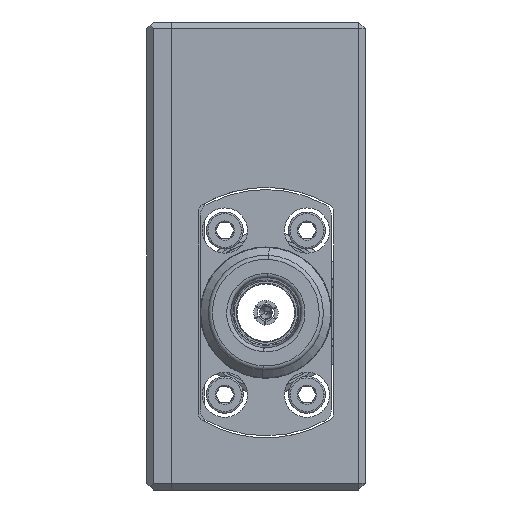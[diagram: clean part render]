
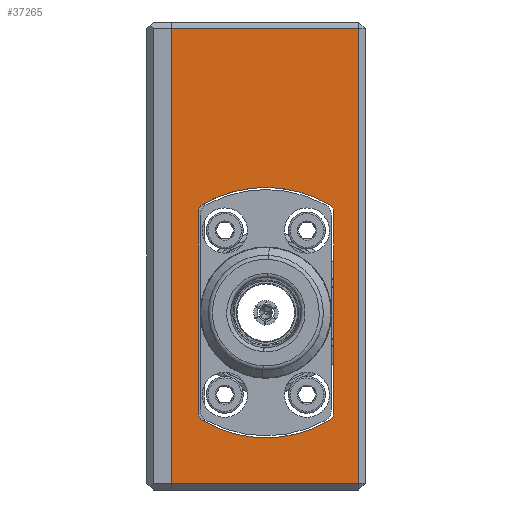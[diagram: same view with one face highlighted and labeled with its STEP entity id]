
A CAD part, left-side view. The second image highlights one B-rep face of the part: STEP entity #37265.
In plain terms, the highlighted planar face has unit normal (-1, 0, 0).
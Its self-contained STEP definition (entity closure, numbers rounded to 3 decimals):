
#716 = DIRECTION ( 'NONE',  ( 0., 0., 1. ) ) ;
#970 = EDGE_LOOP ( 'NONE', ( #13652, #41969, #1644, #5168 ) ) ;
#1521 = AXIS2_PLACEMENT_3D ( 'NONE', #9821, #9874, #9919 ) ;
#1644 = ORIENTED_EDGE ( 'NONE', *, *, #26739, .F. ) ;
#1770 = DIRECTION ( 'NONE',  ( 0., 0., -1. ) ) ;
#1803 = ORIENTED_EDGE ( 'NONE', *, *, #25664, .F. ) ;
#1814 = DIRECTION ( 'NONE',  ( 0., 1., 0. ) ) ;
#1825 = EDGE_CURVE ( 'NONE', #13358, #26185, #26572, .T. ) ;
#2011 = CARTESIAN_POINT ( 'NONE',  ( -20., 0., 20.2 ) ) ;
#2134 = DIRECTION ( 'NONE',  ( -1., 0., 0. ) ) ;
#2281 = LINE ( 'NONE', #11358, #2354 ) ;
#2354 = VECTOR ( 'NONE', #17034, 1000. ) ;
#2933 = VECTOR ( 'NONE', #30967, 1000. ) ;
#3204 = DIRECTION ( 'NONE',  ( 0., 0., -1. ) ) ;
#3257 = CARTESIAN_POINT ( 'NONE',  ( -20., -19.75, -2.132 ) ) ;
#3432 = CIRCLE ( 'NONE', #16463, 15.25 ) ;
#3885 = CARTESIAN_POINT ( 'NONE',  ( -20., -18.75, -2.132 ) ) ;
#3890 = EDGE_LOOP ( 'NONE', ( #23226, #15227, #39162, #12992, #1803, #26733, #40127, #38735, #33332 ) ) ;
#4066 = CARTESIAN_POINT ( 'NONE',  ( -20., 0., -36. ) ) ;
#4133 = CARTESIAN_POINT ( 'NONE',  ( -20., -19.259, -1.271 ) ) ;
#4401 = LINE ( 'NONE', #17752, #2933 ) ;
#4542 = CARTESIAN_POINT ( 'NONE',  ( -20., -23.6, 20.2 ) ) ;
#5168 = ORIENTED_EDGE ( 'NONE', *, *, #40979, .T. ) ;
#5179 = AXIS2_PLACEMENT_3D ( 'NONE', #40763, #31055, #21324 ) ;
#5343 = CARTESIAN_POINT ( 'NONE',  ( -20., -19.259, -27.529 ) ) ;
#5393 = AXIS2_PLACEMENT_3D ( 'NONE', #19528, #10367, #10502 ) ;
#6310 = VERTEX_POINT ( 'NONE', #3257 ) ;
#6495 = CIRCLE ( 'NONE', #31414, 1. ) ;
#7283 = VERTEX_POINT ( 'NONE', #11443 ) ;
#8132 = CIRCLE ( 'NONE', #1521, 1. ) ;
#8286 = CARTESIAN_POINT ( 'NONE',  ( -20., -11.5, 0.85 ) ) ;
#8962 = DIRECTION ( 'NONE',  ( 0., 0., 1. ) ) ;
#9821 = CARTESIAN_POINT ( 'NONE',  ( -20., -4.25, -26.668 ) ) ;
#9874 = DIRECTION ( 'NONE',  ( -1., 0., 0. ) ) ;
#9919 = DIRECTION ( 'NONE',  ( 0., 0., 1. ) ) ;
#10367 = DIRECTION ( 'NONE',  ( -1., 0., 0. ) ) ;
#10502 = DIRECTION ( 'NONE',  ( 0., 0., 1. ) ) ;
#10629 = CARTESIAN_POINT ( 'NONE',  ( -20., -3.741, -1.271 ) ) ;
#11358 = CARTESIAN_POINT ( 'NONE',  ( -20., -22.8, 21. ) ) ;
#11443 = CARTESIAN_POINT ( 'NONE',  ( -20., -22.8, -35.2 ) ) ;
#12204 = EDGE_CURVE ( 'NONE', #23119, #6310, #13185, .T. ) ;
#12690 = VERTEX_POINT ( 'NONE', #4133 ) ;
#12992 = ORIENTED_EDGE ( 'NONE', *, *, #40863, .F. ) ;
#13185 = LINE ( 'NONE', #35597, #15006 ) ;
#13358 = VERTEX_POINT ( 'NONE', #8286 ) ;
#13439 = CARTESIAN_POINT ( 'NONE',  ( -20., -3.25, -26.668 ) ) ;
#13542 = VERTEX_POINT ( 'NONE', #2011 ) ;
#13652 = ORIENTED_EDGE ( 'NONE', *, *, #41110, .T. ) ;
#14740 = LINE ( 'NONE', #4066, #30965 ) ;
#15006 = VECTOR ( 'NONE', #35361, 1000. ) ;
#15013 = VERTEX_POINT ( 'NONE', #38794 ) ;
#15227 = ORIENTED_EDGE ( 'NONE', *, *, #40920, .F. ) ;
#15420 = CIRCLE ( 'NONE', #24796, 1. ) ;
#15458 = CIRCLE ( 'NONE', #26754, 1. ) ;
#16463 = AXIS2_PLACEMENT_3D ( 'NONE', #19812, #39112, #16521 ) ;
#16521 = DIRECTION ( 'NONE',  ( 0., 0., 1. ) ) ;
#17034 = DIRECTION ( 'NONE',  ( 0., 0., 1. ) ) ;
#17159 = VECTOR ( 'NONE', #1770, 1000. ) ;
#17752 = CARTESIAN_POINT ( 'NONE',  ( -20., -23.6, -35.2 ) ) ;
#18417 = LINE ( 'NONE', #21472, #17159 ) ;
#18953 = VERTEX_POINT ( 'NONE', #36807 ) ;
#19528 = CARTESIAN_POINT ( 'NONE',  ( -20., -23.6, -36. ) ) ;
#19722 = PLANE ( 'NONE',  #5393 ) ;
#19812 = CARTESIAN_POINT ( 'NONE',  ( -20., -11.5, -14.4 ) ) ;
#20305 = CARTESIAN_POINT ( 'NONE',  ( -20., -22.8, 20.2 ) ) ;
#21324 = DIRECTION ( 'NONE',  ( 0., 0., 1. ) ) ;
#21472 = CARTESIAN_POINT ( 'NONE',  ( -20., -3.25, -26.668 ) ) ;
#21628 = DIRECTION ( 'NONE',  ( -1., 0., 0. ) ) ;
#22473 = VERTEX_POINT ( 'NONE', #13439 ) ;
#23119 = VERTEX_POINT ( 'NONE', #24875 ) ;
#23226 = ORIENTED_EDGE ( 'NONE', *, *, #25211, .F. ) ;
#24796 = AXIS2_PLACEMENT_3D ( 'NONE', #25080, #2134, #3204 ) ;
#24875 = CARTESIAN_POINT ( 'NONE',  ( -20., -19.75, -26.668 ) ) ;
#25080 = CARTESIAN_POINT ( 'NONE',  ( -20., -4.25, -2.132 ) ) ;
#25211 = EDGE_CURVE ( 'NONE', #31534, #23119, #15458, .T. ) ;
#25664 = EDGE_CURVE ( 'NONE', #26185, #18953, #15420, .T. ) ;
#26185 = VERTEX_POINT ( 'NONE', #10629 ) ;
#26522 = EDGE_CURVE ( 'NONE', #12690, #13358, #38338, .T. ) ;
#26572 = CIRCLE ( 'NONE', #33006, 15.25 ) ;
#26733 = ORIENTED_EDGE ( 'NONE', *, *, #1825, .F. ) ;
#26739 = EDGE_CURVE ( 'NONE', #28231, #13542, #14740, .T. ) ;
#26754 = AXIS2_PLACEMENT_3D ( 'NONE', #41214, #39364, #40612 ) ;
#26850 = VERTEX_POINT ( 'NONE', #20305 ) ;
#28231 = VERTEX_POINT ( 'NONE', #40446 ) ;
#29060 = FACE_BOUND ( 'NONE', #3890, .T. ) ;
#29934 = EDGE_CURVE ( 'NONE', #22473, #15013, #8132, .T. ) ;
#30965 = VECTOR ( 'NONE', #716, 1000. ) ;
#30967 = DIRECTION ( 'NONE',  ( 0., -1., 0. ) ) ;
#31055 = DIRECTION ( 'NONE',  ( -1., 0., 0. ) ) ;
#31414 = AXIS2_PLACEMENT_3D ( 'NONE', #3885, #41901, #39828 ) ;
#31534 = VERTEX_POINT ( 'NONE', #5343 ) ;
#32636 = FACE_OUTER_BOUND ( 'NONE', #970, .T. ) ;
#33006 = AXIS2_PLACEMENT_3D ( 'NONE', #39281, #21628, #8962 ) ;
#33332 = ORIENTED_EDGE ( 'NONE', *, *, #12204, .F. ) ;
#33712 = VECTOR ( 'NONE', #1814, 1000. ) ;
#34447 = LINE ( 'NONE', #4542, #33712 ) ;
#34916 = EDGE_CURVE ( 'NONE', #6310, #12690, #6495, .T. ) ;
#35361 = DIRECTION ( 'NONE',  ( 0., 0., 1. ) ) ;
#35597 = CARTESIAN_POINT ( 'NONE',  ( -20., -19.75, -26.668 ) ) ;
#36807 = CARTESIAN_POINT ( 'NONE',  ( -20., -3.25, -2.132 ) ) ;
#37265 = ADVANCED_FACE ( 'NONE', ( #29060, #32636 ), #19722, .T. ) ;
#38091 = EDGE_CURVE ( 'NONE', #26850, #13542, #34447, .T. ) ;
#38338 = CIRCLE ( 'NONE', #5179, 15.25 ) ;
#38735 = ORIENTED_EDGE ( 'NONE', *, *, #34916, .F. ) ;
#38794 = CARTESIAN_POINT ( 'NONE',  ( -20., -3.741, -27.529 ) ) ;
#39112 = DIRECTION ( 'NONE',  ( -1., 0., 0. ) ) ;
#39162 = ORIENTED_EDGE ( 'NONE', *, *, #29934, .F. ) ;
#39281 = CARTESIAN_POINT ( 'NONE',  ( -20., -11.5, -14.4 ) ) ;
#39364 = DIRECTION ( 'NONE',  ( -1., 0., 0. ) ) ;
#39828 = DIRECTION ( 'NONE',  ( 0., 0., -1. ) ) ;
#40127 = ORIENTED_EDGE ( 'NONE', *, *, #26522, .F. ) ;
#40446 = CARTESIAN_POINT ( 'NONE',  ( -20., 0., -35.2 ) ) ;
#40612 = DIRECTION ( 'NONE',  ( 0., 0., -1. ) ) ;
#40763 = CARTESIAN_POINT ( 'NONE',  ( -20., -11.5, -14.4 ) ) ;
#40863 = EDGE_CURVE ( 'NONE', #18953, #22473, #18417, .T. ) ;
#40920 = EDGE_CURVE ( 'NONE', #15013, #31534, #3432, .T. ) ;
#40979 = EDGE_CURVE ( 'NONE', #28231, #7283, #4401, .T. ) ;
#41110 = EDGE_CURVE ( 'NONE', #7283, #26850, #2281, .T. ) ;
#41214 = CARTESIAN_POINT ( 'NONE',  ( -20., -18.75, -26.668 ) ) ;
#41901 = DIRECTION ( 'NONE',  ( -1., 0., 0. ) ) ;
#41969 = ORIENTED_EDGE ( 'NONE', *, *, #38091, .T. ) ;
